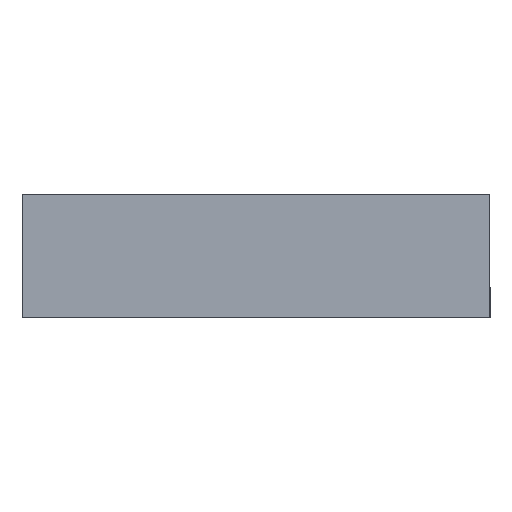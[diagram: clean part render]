
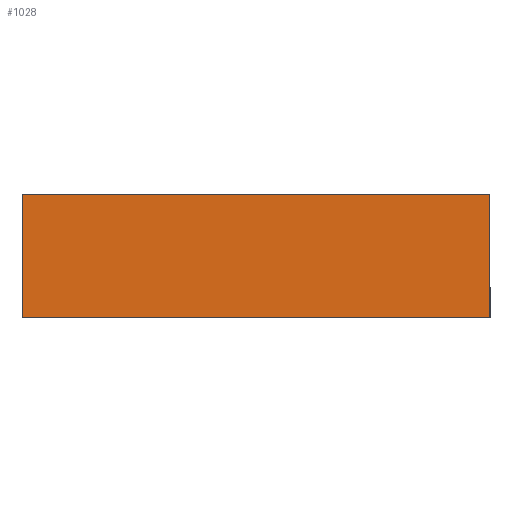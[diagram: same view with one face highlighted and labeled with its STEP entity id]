
A CAD part, left-side view. The second image highlights one B-rep face of the part: STEP entity #1028.
In plain terms, the highlighted planar face has unit normal (-1, 0, 0).
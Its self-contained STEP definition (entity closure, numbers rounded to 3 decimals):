
#20 = CARTESIAN_POINT ( 'NONE',  ( 0., 0., 14.833 ) ) ;
#46 = ORIENTED_EDGE ( 'NONE', *, *, #865, .T. ) ;
#57 = EDGE_LOOP ( 'NONE', ( #46, #117, #407, #583 ) ) ;
#68 = DIRECTION ( 'NONE',  ( 0., 0., 1. ) ) ;
#117 = ORIENTED_EDGE ( 'NONE', *, *, #1174, .F. ) ;
#177 = FACE_OUTER_BOUND ( 'NONE', #57, .T. ) ;
#180 = AXIS2_PLACEMENT_3D ( 'NONE', #1176, #1279, #68 ) ;
#278 = PLANE ( 'NONE',  #180 ) ;
#308 = VECTOR ( 'NONE', #349, 1000. ) ;
#349 = DIRECTION ( 'NONE',  ( 0., 1., 0. ) ) ;
#384 = CARTESIAN_POINT ( 'NONE',  ( 0., -30., 14.833 ) ) ;
#390 = DIRECTION ( 'NONE',  ( 0., 0., -1. ) ) ;
#407 = ORIENTED_EDGE ( 'NONE', *, *, #1052, .F. ) ;
#411 = LINE ( 'NONE', #1218, #791 ) ;
#416 = VECTOR ( 'NONE', #873, 1000. ) ;
#490 = EDGE_CURVE ( 'NONE', #852, #1206, #530, .T. ) ;
#512 = CARTESIAN_POINT ( 'NONE',  ( 0., -30., -1. ) ) ;
#530 = LINE ( 'NONE', #20, #308 ) ;
#583 = ORIENTED_EDGE ( 'NONE', *, *, #490, .T. ) ;
#596 = CARTESIAN_POINT ( 'NONE',  ( 0., 30., 14.833 ) ) ;
#692 = LINE ( 'NONE', #1293, #416 ) ;
#719 = CARTESIAN_POINT ( 'NONE',  ( 0., 30., -1. ) ) ;
#788 = CARTESIAN_POINT ( 'NONE',  ( 0., 30., 14.833 ) ) ;
#791 = VECTOR ( 'NONE', #1212, 1000. ) ;
#852 = VERTEX_POINT ( 'NONE', #384 ) ;
#865 = EDGE_CURVE ( 'NONE', #1206, #1281, #1303, .T. ) ;
#873 = DIRECTION ( 'NONE',  ( 0., 0., -1. ) ) ;
#1028 = ADVANCED_FACE ( 'NONE', ( #177 ), #278, .T. ) ;
#1048 = VECTOR ( 'NONE', #390, 1000. ) ;
#1052 = EDGE_CURVE ( 'NONE', #852, #1214, #692, .T. ) ;
#1174 = EDGE_CURVE ( 'NONE', #1214, #1281, #411, .T. ) ;
#1176 = CARTESIAN_POINT ( 'NONE',  ( 0., 0., 14.833 ) ) ;
#1206 = VERTEX_POINT ( 'NONE', #596 ) ;
#1212 = DIRECTION ( 'NONE',  ( 0., 1., 0. ) ) ;
#1214 = VERTEX_POINT ( 'NONE', #512 ) ;
#1218 = CARTESIAN_POINT ( 'NONE',  ( 0., 30., -1. ) ) ;
#1279 = DIRECTION ( 'NONE',  ( -1., 0., 0. ) ) ;
#1281 = VERTEX_POINT ( 'NONE', #719 ) ;
#1293 = CARTESIAN_POINT ( 'NONE',  ( 0., -30., 14.833 ) ) ;
#1303 = LINE ( 'NONE', #788, #1048 ) ;
